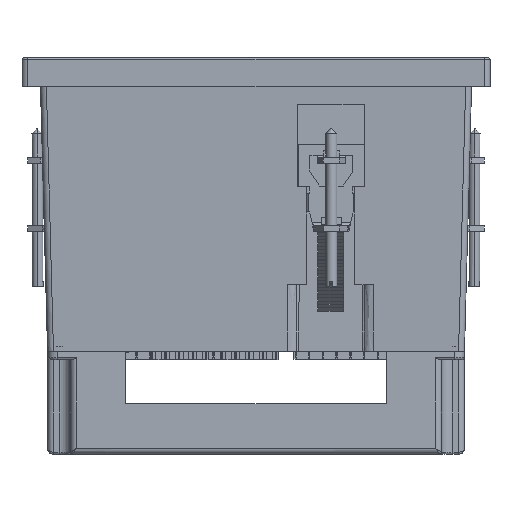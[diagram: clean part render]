
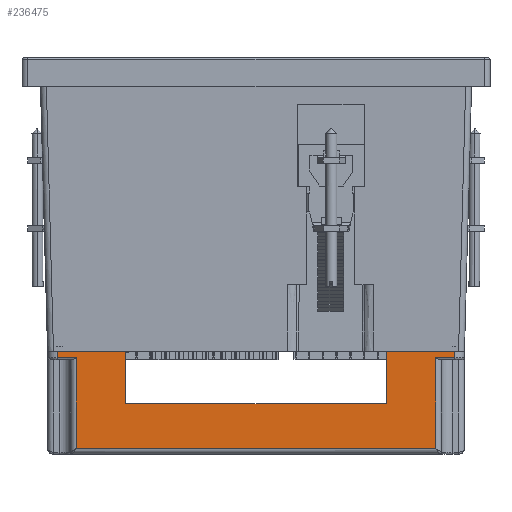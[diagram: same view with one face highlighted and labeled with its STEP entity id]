
A CAD part, front view. The second image highlights one B-rep face of the part: STEP entity #236475.
In plain terms, the highlighted planar face has unit normal (0, -1, 0) as drawn and (1, 0, 0) by its records, which use the part's own axes.
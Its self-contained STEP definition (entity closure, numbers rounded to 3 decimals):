
#6449 = DIRECTION ( 'NONE',  ( 0., -1., 0. ) ) ;
#6824 = AXIS2_PLACEMENT_3D ( 'NONE', #132678, #76151, #125893 ) ;
#6931 = VERTEX_POINT ( 'NONE', #111258 ) ;
#8429 = ORIENTED_EDGE ( 'NONE', *, *, #182164, .F. ) ;
#8976 = CARTESIAN_POINT ( 'NONE',  ( 53., 50.5, 24.7 ) ) ;
#9060 = LINE ( 'NONE', #140314, #153360 ) ;
#10456 = ORIENTED_EDGE ( 'NONE', *, *, #179093, .T. ) ;
#12563 = DIRECTION ( 'NONE',  ( 0., -1., 0. ) ) ;
#12860 = LINE ( 'NONE', #159821, #63610 ) ;
#13102 = VECTOR ( 'NONE', #6449, 1000. ) ;
#21765 = VERTEX_POINT ( 'NONE', #40203 ) ;
#25511 = ORIENTED_EDGE ( 'NONE', *, *, #169622, .F. ) ;
#26421 = CARTESIAN_POINT ( 'NONE',  ( 53., -45.668, 1.66 ) ) ;
#27980 = ORIENTED_EDGE ( 'NONE', *, *, #43822, .T. ) ;
#29153 = ORIENTED_EDGE ( 'NONE', *, *, #229565, .T. ) ;
#33586 = CARTESIAN_POINT ( 'NONE',  ( 53., -33.15, 13.4 ) ) ;
#34658 = VERTEX_POINT ( 'NONE', #89356 ) ;
#34740 = ORIENTED_EDGE ( 'NONE', *, *, #155243, .F. ) ;
#34832 = VERTEX_POINT ( 'NONE', #26421 ) ;
#38721 = ORIENTED_EDGE ( 'NONE', *, *, #74547, .T. ) ;
#40201 = LINE ( 'NONE', #113778, #13102 ) ;
#40203 = CARTESIAN_POINT ( 'NONE',  ( 53., -33.15, 0. ) ) ;
#40806 = CARTESIAN_POINT ( 'NONE',  ( 53., -45.668, 24.7 ) ) ;
#43136 = CARTESIAN_POINT ( 'NONE',  ( 53., 33.15, 0. ) ) ;
#43822 = EDGE_CURVE ( 'NONE', #121846, #21765, #139698, .T. ) ;
#43956 = EDGE_CURVE ( 'NONE', #74531, #34658, #109534, .T. ) ;
#51107 = VERTEX_POINT ( 'NONE', #141292 ) ;
#58534 = VECTOR ( 'NONE', #68337, 1000. ) ;
#59145 = CARTESIAN_POINT ( 'NONE',  ( 53., 50.5, 0. ) ) ;
#61443 = DIRECTION ( 'NONE',  ( 0., 0., 1. ) ) ;
#63610 = VECTOR ( 'NONE', #127203, 1000. ) ;
#65664 = DIRECTION ( 'NONE',  ( 0., 0., -1. ) ) ;
#68337 = DIRECTION ( 'NONE',  ( 0., 0., -1. ) ) ;
#69299 = VERTEX_POINT ( 'NONE', #59145 ) ;
#69984 = VECTOR ( 'NONE', #121698, 1000. ) ;
#72526 = VERTEX_POINT ( 'NONE', #196028 ) ;
#74531 = VERTEX_POINT ( 'NONE', #217953 ) ;
#74547 = EDGE_CURVE ( 'NONE', #184000, #69299, #89293, .T. ) ;
#76151 = DIRECTION ( 'NONE',  ( -1., 0., 0. ) ) ;
#78679 = DIRECTION ( 'NONE',  ( 0., 0., 1. ) ) ;
#87374 = VECTOR ( 'NONE', #61443, 1000. ) ;
#89293 = LINE ( 'NONE', #130055, #96133 ) ;
#89356 = CARTESIAN_POINT ( 'NONE',  ( 53., -33.15, 13.4 ) ) ;
#96133 = VECTOR ( 'NONE', #113246, 1000. ) ;
#99757 = EDGE_CURVE ( 'NONE', #72526, #121846, #108578, .T. ) ;
#103761 = LINE ( 'NONE', #178296, #234972 ) ;
#108578 = LINE ( 'NONE', #216876, #157128 ) ;
#109534 = LINE ( 'NONE', #33586, #120091 ) ;
#110473 = EDGE_CURVE ( 'NONE', #34832, #72526, #40201, .T. ) ;
#110657 = ORIENTED_EDGE ( 'NONE', *, *, #110473, .T. ) ;
#111179 = VERTEX_POINT ( 'NONE', #40806 ) ;
#111258 = CARTESIAN_POINT ( 'NONE',  ( 53., 50.5, 1.66 ) ) ;
#113246 = DIRECTION ( 'NONE',  ( 0., 1., 0. ) ) ;
#113778 = CARTESIAN_POINT ( 'NONE',  ( 53., -50.5, 1.66 ) ) ;
#117784 = ORIENTED_EDGE ( 'NONE', *, *, #99757, .T. ) ;
#118006 = EDGE_CURVE ( 'NONE', #51107, #111179, #154785, .T. ) ;
#120091 = VECTOR ( 'NONE', #133191, 1000. ) ;
#121698 = DIRECTION ( 'NONE',  ( 0., 1., 0. ) ) ;
#121846 = VERTEX_POINT ( 'NONE', #188026 ) ;
#125893 = DIRECTION ( 'NONE',  ( 0., -1., 0. ) ) ;
#127203 = DIRECTION ( 'NONE',  ( 0., 0., -1. ) ) ;
#130055 = CARTESIAN_POINT ( 'NONE',  ( 53., 50.5, 0. ) ) ;
#132678 = CARTESIAN_POINT ( 'NONE',  ( 53., 50.5, 26.2 ) ) ;
#133191 = DIRECTION ( 'NONE',  ( 0., -1., 0. ) ) ;
#139698 = LINE ( 'NONE', #213166, #69984 ) ;
#140314 = CARTESIAN_POINT ( 'NONE',  ( 53., -33.15, 13.4 ) ) ;
#141292 = CARTESIAN_POINT ( 'NONE',  ( 53., 45.668, 24.7 ) ) ;
#142287 = VECTOR ( 'NONE', #78679, 1000. ) ;
#143432 = DIRECTION ( 'NONE',  ( 0., 0., -1. ) ) ;
#145320 = LINE ( 'NONE', #236784, #58534 ) ;
#147110 = VECTOR ( 'NONE', #12563, 1000. ) ;
#149429 = EDGE_LOOP ( 'NONE', ( #207446, #110657, #117784, #27980, #25511, #194590, #8429, #38721, #34740, #29153, #10456, #165075 ) ) ;
#149533 = FACE_OUTER_BOUND ( 'NONE', #149429, .T. ) ;
#153034 = LINE ( 'NONE', #226418, #87374 ) ;
#153360 = VECTOR ( 'NONE', #65664, 1000. ) ;
#154785 = LINE ( 'NONE', #8976, #147110 ) ;
#155243 = EDGE_CURVE ( 'NONE', #6931, #69299, #12860, .T. ) ;
#156639 = VERTEX_POINT ( 'NONE', #182063 ) ;
#157128 = VECTOR ( 'NONE', #143432, 1000. ) ;
#159821 = CARTESIAN_POINT ( 'NONE',  ( 53., 50.5, 26.2 ) ) ;
#165075 = ORIENTED_EDGE ( 'NONE', *, *, #118006, .T. ) ;
#168801 = PLANE ( 'NONE',  #6824 ) ;
#169622 = EDGE_CURVE ( 'NONE', #34658, #21765, #9060, .T. ) ;
#174772 = EDGE_CURVE ( 'NONE', #111179, #34832, #145320, .T. ) ;
#178296 = CARTESIAN_POINT ( 'NONE',  ( 53., 45.668, 1.66 ) ) ;
#179093 = EDGE_CURVE ( 'NONE', #156639, #51107, #153034, .T. ) ;
#182063 = CARTESIAN_POINT ( 'NONE',  ( 53., 45.668, 1.66 ) ) ;
#182164 = EDGE_CURVE ( 'NONE', #184000, #74531, #207414, .T. ) ;
#184000 = VERTEX_POINT ( 'NONE', #43136 ) ;
#188026 = CARTESIAN_POINT ( 'NONE',  ( 53., -50.5, 0. ) ) ;
#194590 = ORIENTED_EDGE ( 'NONE', *, *, #43956, .F. ) ;
#196028 = CARTESIAN_POINT ( 'NONE',  ( 53., -50.5, 1.66 ) ) ;
#207414 = LINE ( 'NONE', #209820, #142287 ) ;
#207446 = ORIENTED_EDGE ( 'NONE', *, *, #174772, .T. ) ;
#209820 = CARTESIAN_POINT ( 'NONE',  ( 53., 33.15, 13.4 ) ) ;
#213166 = CARTESIAN_POINT ( 'NONE',  ( 53., 50.5, 0. ) ) ;
#216876 = CARTESIAN_POINT ( 'NONE',  ( 53., -50.5, 26.2 ) ) ;
#217953 = CARTESIAN_POINT ( 'NONE',  ( 53., 33.15, 13.4 ) ) ;
#226418 = CARTESIAN_POINT ( 'NONE',  ( 53., 45.668, 26.2 ) ) ;
#229565 = EDGE_CURVE ( 'NONE', #6931, #156639, #103761, .T. ) ;
#231224 = DIRECTION ( 'NONE',  ( 0., -1., 0. ) ) ;
#234972 = VECTOR ( 'NONE', #231224, 1000. ) ;
#236475 = ADVANCED_FACE ( 'NONE', ( #149533 ), #168801, .F. ) ;
#236784 = CARTESIAN_POINT ( 'NONE',  ( 53., -45.668, 26.2 ) ) ;
